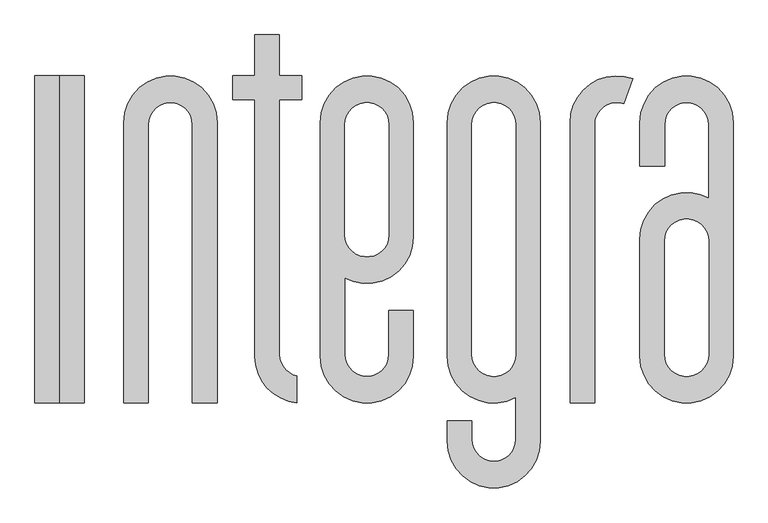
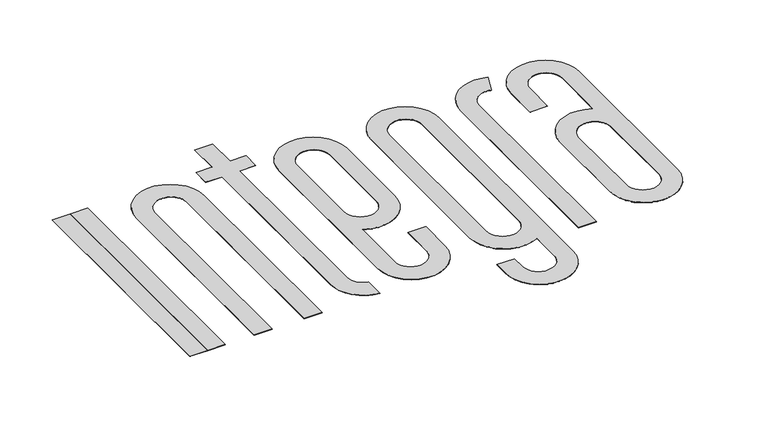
"""IFC4 building model written with IfcOpenShell, lengths in millimetres: proxy geometry, Integra Logo : Integra Logo."""

from ifc_helpers import new_model, si_unit, point, frame_2d, origin, origin_with_axes, place, context, project, spatial, polyline, circle_curve, trimmed, segment, composite_curve, outline, extrude, source, transform, mapped, element, save


def generic_models_e4622b55(model_context):
    return source(origin(), model_context, "Body", "SweptSolid", [
        extrude(outline(polyline([(-619.7001164, -476.25), (-619.7001164, 539.75), (-543.5001164, 539.75), (-543.5001164, -476.25), (-619.7001164, -476.25)])), origin_with_axes(), (0.0, 0.0, 1.0), 0.79375),
        extrude(outline(polyline([(-543.5001164, 539.75), (-467.3001164, 539.75), (-467.3001164, -476.25), (-543.5001164, -476.25), (-543.5001164, 539.75)])), origin_with_axes(), (0.0, 0.0, 1.0), 0.79375),
        extrude(outline(composite_curve([segment(trimmed(circle_curve(frame_2d((-199.0126164, 395.2875)), 144.4625), [point((-343.4751164, 395.2875))], [point((-54.5501164, 395.2875))], False, "CARTESIAN"), True, "CONTINUOUS"), segment(polyline([(-54.5501164, 395.2875), (-54.5501164, -476.25), (-130.7501164, -476.25), (-130.7501164, 388.8389422)]), True, "CONTINUOUS"), segment(trimmed(circle_curve(frame_2d((-199.0126164, 388.8389422)), 68.2625), [point((-130.7501164, 388.8389422))], [point((-267.2751164, 388.8389422))], True, "CARTESIAN"), True, "CONTINUOUS"), segment(polyline([(-267.2751164, 388.8389422), (-267.2751164, -476.25), (-343.4751164, -476.25), (-343.4751164, 395.2875)]), True, "CONTINUOUS")], self_intersect=False)), origin_with_axes(), (0.0, 0.0, 1.0), 0.79375),
        extrude(outline(composite_curve([segment(polyline([(62.9248836, 466.719805), (-5.7223073, 466.719805), (-5.7223073, 539.75), (62.9248836, 539.75), (62.9248836, 667.2332169), (139.1248836, 667.2332169), (139.1248836, 539.75), (207.7720744, 539.75), (207.7720744, 466.719805), (139.1248836, 466.719805), (139.1248836, -325.3389422)]), True, "CONTINUOUS"), segment(trimmed(circle_curve(frame_2d((207.3873836, -325.3389422)), 68.2625), [point((139.1248836, -325.3389422))], [point((193.5268692, -392.1794617))], True, "CARTESIAN"), True, "CONTINUOUS"), segment(polyline([(193.5268692, -392.1794617), (193.5268692, -475.5835363)]), True, "CONTINUOUS"), segment(trimmed(circle_curve(frame_2d((207.3873836, -331.7875)), 144.4625), [point((193.5268692, -475.5835363))], [point((62.9248836, -331.7875))], False, "CARTESIAN"), True, "CONTINUOUS"), segment(polyline([(62.9248836, -331.7875), (62.9248836, 466.719805)]), True, "CONTINUOUS")], self_intersect=False)), origin_with_axes(), (0.0, 0.0, 1.0), 0.79375),
        extrude(outline(composite_curve([segment(trimmed(circle_curve(frame_2d((410.5873836, 395.2875)), 144.4625), [point((266.1248836, 395.2875))], [point((555.0498836, 395.2875))], False, "CARTESIAN"), True, "CONTINUOUS"), segment(polyline([(555.0498836, 395.2875), (555.0498836, 39.5889422)]), True, "CONTINUOUS"), segment(trimmed(circle_curve(frame_2d((410.5873836, 39.5889422)), 144.4625), [point((555.0498836, 39.5889422))], [point((342.3248836, -87.7281619))], False, "CARTESIAN"), True, "CONTINUOUS"), segment(polyline([(342.3248836, -87.7281619), (342.3248836, -325.3389422)]), True, "CONTINUOUS"), segment(trimmed(circle_curve(frame_2d((410.5873836, -325.3389422)), 68.2625), [point((342.3248836, -325.3389422))], [point((478.8498836, -325.3389422))], True, "CARTESIAN"), True, "CONTINUOUS"), segment(polyline([(478.8498836, -325.3389422), (478.8498836, -188.9125), (555.0498836, -188.9125), (555.0498836, -331.7875)]), True, "CONTINUOUS"), segment(trimmed(circle_curve(frame_2d((410.5873836, -331.7875)), 144.4625), [point((555.0498836, -331.7875))], [point((266.1248836, -331.7875))], False, "CARTESIAN"), True, "CONTINUOUS"), segment(polyline([(266.1248836, -331.7875), (266.1248836, 395.2875)]), True, "CONTINUOUS")], self_intersect=False), holes=[composite_curve([segment(polyline([(342.3248836, 388.8389422), (342.3248836, 46.0375)]), True, "CONTINUOUS"), segment(trimmed(circle_curve(frame_2d((410.5873836, 46.0375)), 68.2625), [point((342.3248836, 46.0375))], [point((478.8498836, 46.0375))], True, "CARTESIAN"), True, "CONTINUOUS"), segment(polyline([(478.8498836, 46.0375), (478.8498836, 388.8389422)]), True, "CONTINUOUS"), segment(trimmed(circle_curve(frame_2d((410.5873836, 388.8389422)), 68.2625), [point((478.8498836, 388.8389422))], [point((342.3248836, 388.8389422))], True, "CARTESIAN"), True, "CONTINUOUS")], self_intersect=False)]), origin_with_axes(), (0.0, 0.0, 1.0), 0.79375),
        extrude(outline(composite_curve([segment(trimmed(circle_curve(frame_2d((804.2873836, 395.2875)), 144.4625), [point((659.8248836, 395.2875))], [point((948.7498836, 395.2875))], False, "CARTESIAN"), True, "CONTINUOUS"), segment(polyline([(948.7498836, 395.2875), (948.7498836, -595.3125)]), True, "CONTINUOUS"), segment(trimmed(circle_curve(frame_2d((804.2873836, -595.3125)), 144.4625), [point((948.7498836, -595.3125))], [point((659.8248836, -595.3125))], False, "CARTESIAN"), True, "CONTINUOUS"), segment(polyline([(659.8248836, -595.3125), (659.8248836, -531.8125), (736.0248836, -531.8125), (736.0248836, -588.8639422)]), True, "CONTINUOUS"), segment(trimmed(circle_curve(frame_2d((804.2873836, -588.8639422)), 68.2625), [point((736.0248836, -588.8639422))], [point((872.5498836, -588.8639422))], True, "CARTESIAN"), True, "CONTINUOUS"), segment(polyline([(872.5498836, -588.8639422), (872.5498836, -459.1046041)]), True, "CONTINUOUS"), segment(trimmed(circle_curve(frame_2d((804.2873836, -331.7875)), 144.4625), [point((872.5498836, -459.1046041))], [point((659.8248836, -331.7875))], False, "CARTESIAN"), True, "CONTINUOUS"), segment(polyline([(659.8248836, -331.7875), (659.8248836, 395.2875)]), True, "CONTINUOUS")], self_intersect=False), holes=[composite_curve([segment(polyline([(736.0248836, 388.8389422), (736.0248836, -325.3389422)]), True, "CONTINUOUS"), segment(trimmed(circle_curve(frame_2d((804.2873836, -325.3389422)), 68.2625), [point((736.0248836, -325.3389422))], [point((872.5498836, -325.3389422))], True, "CARTESIAN"), True, "CONTINUOUS"), segment(polyline([(872.5498836, -325.3389422), (872.5498836, 388.8389422)]), True, "CONTINUOUS"), segment(trimmed(circle_curve(frame_2d((804.2873836, 388.8389422)), 68.2625), [point((872.5498836, 388.8389422))], [point((736.0248836, 388.8389422))], True, "CARTESIAN"), True, "CONTINUOUS")], self_intersect=False)]), origin_with_axes(), (0.0, 0.0, 1.0), 0.79375),
        extrude(outline(composite_curve([segment(trimmed(circle_curve(frame_2d((1402.3376164, 33.3375)), 144.4625), [point((1257.8751164, 33.3375))], [point((1470.6001164, 160.6546041))], False, "CARTESIAN"), True, "CONTINUOUS"), segment(polyline([(1470.6001164, 160.6546041), (1470.6001164, 388.8389422)]), True, "CONTINUOUS"), segment(trimmed(circle_curve(frame_2d((1402.3376164, 388.8389422)), 68.2625), [point((1470.6001164, 388.8389422))], [point((1334.0751164, 388.8389422))], True, "CARTESIAN"), True, "CONTINUOUS"), segment(polyline([(1334.0751164, 388.8389422), (1334.0751164, 260.35), (1257.8751164, 260.35), (1257.8751164, 395.2875)]), True, "CONTINUOUS"), segment(trimmed(circle_curve(frame_2d((1402.3376164, 395.2875)), 144.4625), [point((1257.8751164, 395.2875))], [point((1546.8001164, 395.2875))], False, "CARTESIAN"), True, "CONTINUOUS"), segment(polyline([(1546.8001164, 395.2875), (1546.8001164, -331.7875)]), True, "CONTINUOUS"), segment(trimmed(circle_curve(frame_2d((1402.3376164, -331.7875)), 144.4625), [point((1546.8001164, -331.7875))], [point((1257.8751164, -331.7875))], False, "CARTESIAN"), True, "CONTINUOUS"), segment(polyline([(1257.8751164, -331.7875), (1257.8751164, 33.3375)]), True, "CONTINUOUS")], self_intersect=False), holes=[composite_curve([segment(polyline([(1334.0751164, 26.8889422), (1334.0751164, -325.3389422)]), True, "CONTINUOUS"), segment(trimmed(circle_curve(frame_2d((1402.3376164, -325.3389422)), 68.2625), [point((1334.0751164, -325.3389422))], [point((1470.6001164, -325.3389422))], True, "CARTESIAN"), True, "CONTINUOUS"), segment(polyline([(1470.6001164, -325.3389422), (1470.6001164, 26.8889422)]), True, "CONTINUOUS"), segment(trimmed(circle_curve(frame_2d((1402.3376164, 26.8889422)), 68.2625), [point((1470.6001164, 26.8889422))], [point((1334.0751164, 26.8889422))], True, "CARTESIAN"), True, "CONTINUOUS")], self_intersect=False)]), origin_with_axes(), (0.0, 0.0, 1.0), 0.79375),
        extrude(outline(composite_curve([segment(trimmed(circle_curve(frame_2d((1185.2873836, 395.2875)), 144.4625), [point((1040.8248836, 395.2875))], [point((1235.5071816, 530.7400223))], False, "CARTESIAN"), True, "CONTINUOUS"), segment(polyline([(1235.5071816, 530.7400223), (1206.902907, 453.5887534)]), True, "CONTINUOUS"), segment(trimmed(circle_curve(frame_2d((1185.2873836, 388.8389422)), 68.2625), [point((1206.902907, 453.5887534))], [point((1117.0248836, 388.8389422))], True, "CARTESIAN"), True, "CONTINUOUS"), segment(polyline([(1117.0248836, 388.8389422), (1117.0248836, -476.25), (1040.8248836, -476.25), (1040.8248836, 395.2875)]), True, "CONTINUOUS")], self_intersect=False)), origin_with_axes(), (0.0, 0.0, 1.0), 0.79375),
    ])


if __name__ == "__main__":
    model = new_model("IFC4")
    model_context = context("Model", 3, world=origin())
    ifc_project = project(units=[si_unit("LENGTHUNIT", "METRE", prefix="MILLI")], contexts=[model_context])
    site = spatial("IfcSite", under=ifc_project)
    building = spatial("IfcBuilding", under=site)
    placement = place(None, origin())
    generic_models_shape = generic_models_e4622b55(model_context)
    element("IfcBuildingElementProxy", 1, Name="Integra Logo : Integra Logo", ObjectType="Integra Logo : Integra Logo", at=placement, inside=building, context=model_context, shape_type="MappedRepresentation", body=[
        mapped(generic_models_shape, transform((0.0, 0.0, 0.0), x_axis=(1.0, 0.0, 0.0), y_axis=(0.0, 1.0, 0.0), z_axis=(0.0, 0.0, 1.0))),
    ])
    save(model, "model.ifc")
